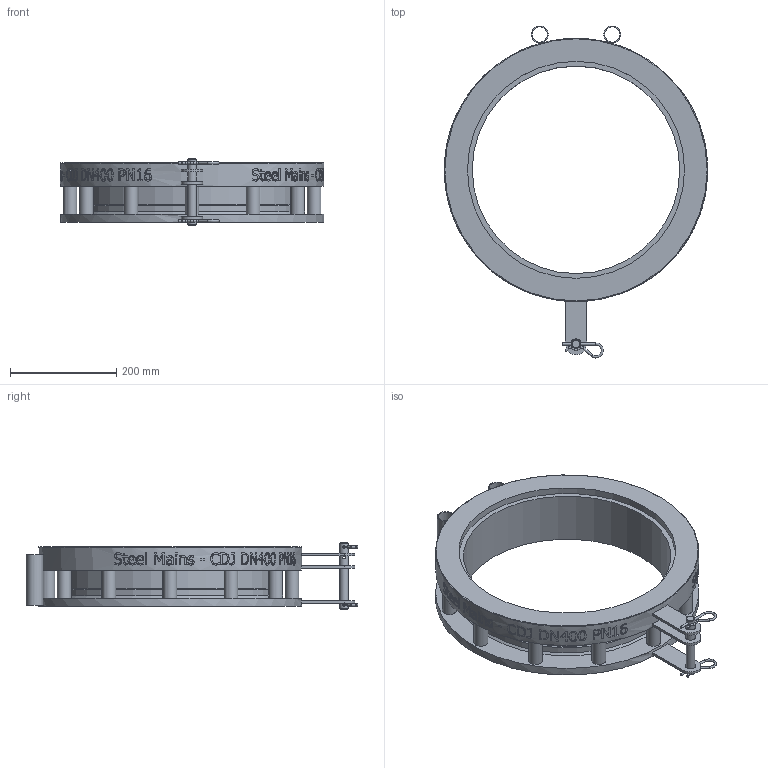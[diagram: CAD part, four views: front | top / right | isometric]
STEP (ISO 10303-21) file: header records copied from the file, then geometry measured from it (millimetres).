
FILE_DESCRIPTION(/* description */ (''),/* implementation_level */ '2;1');
FILE_NAME(/* name */ 'C:\Vault\Designs\Somerton\196\196-13 Models\Marketing Files\SteelMains - CDJ DN400 PN16 - (196-13T rev D).stp',/* time_stamp */ '2025-08-22T15:07:38+10:00',/* author */ ('Sam.Cavallaro'),/* organization */ (''),/* preprocessor_version */ 'ST-DEVELOPER v18.1',/* originating_system */ 'Autodesk Inventor 2021',/* authorisation */ '');
FILE_SCHEMA (('AUTOMOTIVE_DESIGN { 1 0 10303 214 3 1 1 }'));
Length unit declared in the file: millimetre
Products named in the file (1): SPS_ENG-084485
Bounding box: 495 x 624 x 125 mm (x, y, z)
Volume: 5084541.4 mm3; surface area: 681065.2 mm2
Topology: 6 solids, 6 shells, 803 faces, 2165 edges, 1444 vertices
Faces by surface type: bspline 368, plane 311, cylinder 111, torus 8, cone 5
Full cylindrical faces by diameter (mm): 4 x10, 5 x3, 16 x1, 20 x3, 26 x12, 28.8 x2, 32 x2, 390 x1, 402 x1, 406 x1, 408 x1, 495 x1
Entity records: 34865 total; most frequent: CARTESIAN_POINT 16537, ORIENTED_EDGE 4336, DIRECTION 2685, EDGE_CURVE 2168, VERTEX_POINT 1447, LINE 1015, VECTOR 1015, EDGE_LOOP 915
